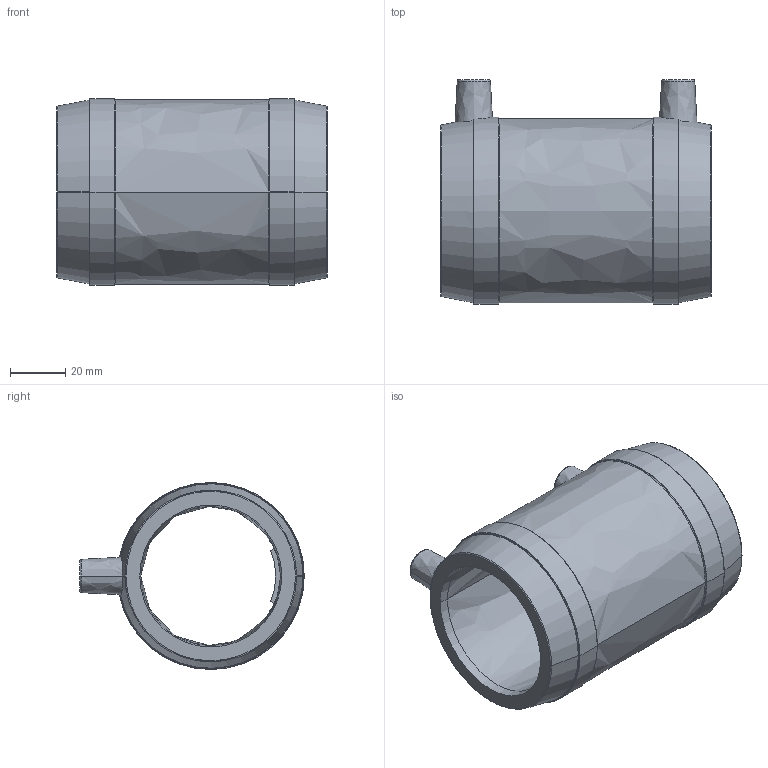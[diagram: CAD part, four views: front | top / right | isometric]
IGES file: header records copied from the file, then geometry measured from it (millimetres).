
Start section:  PTC IGES file: mb_d050_01.igs
Global section: file name: mb_d050_01.igs; native system: Pro/ENGINEER by Parametric Technology Corporation; preprocessor: 2011490; author: MikulicP; organization: Unknown; date: 20151102.113323; units: millimetre
Bounding box: 98 x 81.28 x 67.7 mm (x, y, z)
Surface area: 39560.9 mm2 (no closed solid volume)
Topology: 0 solids, 0 shells, 174 faces, 890 edges, 890 vertices
Faces by surface type: bspline 174
